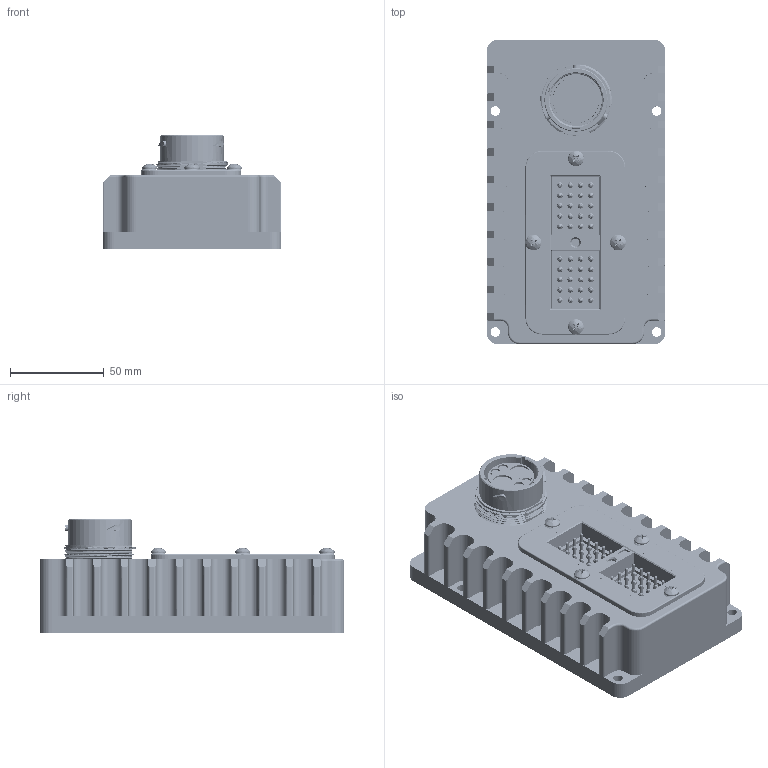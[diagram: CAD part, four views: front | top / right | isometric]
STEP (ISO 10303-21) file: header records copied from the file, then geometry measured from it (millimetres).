
FILE_DESCRIPTION (( 'STEP AP214' ), '1' );
FILE_NAME ('AFSC-100.STEP', '2019-09-20T20:02:55', ( '' ), ( '' ), 'SwSTEP 2.0', 'SolidWorks 2014', '' );
FILE_SCHEMA (( 'AUTOMOTIVE_DESIGN' ));
Length unit declared in the file: millimetre
Products named in the file (99): __TBHW-20-11-T-D-250-SM; User_Library-RES_2013-0805; HDP24-18-6PN; User_Library-RES_1609-0603; DO-214AC_2; __BBHW-20-11-T-D-250-SM; BOX; __PHW-20-11-T-D-250-SM; AFSC-100; top board; Part3^AFSC-100; Part2^AFSC-100; c-drc10-40p-a004-99-3d_2; Assem2; Part1^Assem2; User_Library-SOD323-1_2; _TSW-108-19-T-S_body; connector board from dip trace; TSW-108-19-T-S; capp-30.5_25.4x7.6_2; Board_connector_board_from_dip_trace; 90380A196_PHILLIPS THREAD-FORMING SCREW FOR PLASTIC; HW-20-11-T-D-250-SM
Assembly tree (80 placements, depth 5):
  User_Library-RES_2013-0805
  HDP24-18-6PN
  User_Library-RES_1609-0603
  DO-214AC_2
  User_Library-RES_2013-0805
Bounding box: 95.25 x 162 x 60.16 mm (x, y, z)
Volume: 375045 mm3; surface area: 196258.7 mm2
Topology: 184 solids, 184 shells, 9440 faces, 24597 edges, 16044 vertices
Faces by surface type: plane 5497, bspline 2028, cylinder 1631, cone 200, torus 84
Entity records: 256264 total; most frequent: CARTESIAN_POINT 80766, ORIENTED_EDGE 27172, DIRECTION 24109, EDGE_CURVE 13586, LINE 8811, VECTOR 8811, VERTEX_POINT 8809, AXIS2_PLACEMENT_3D 7649
